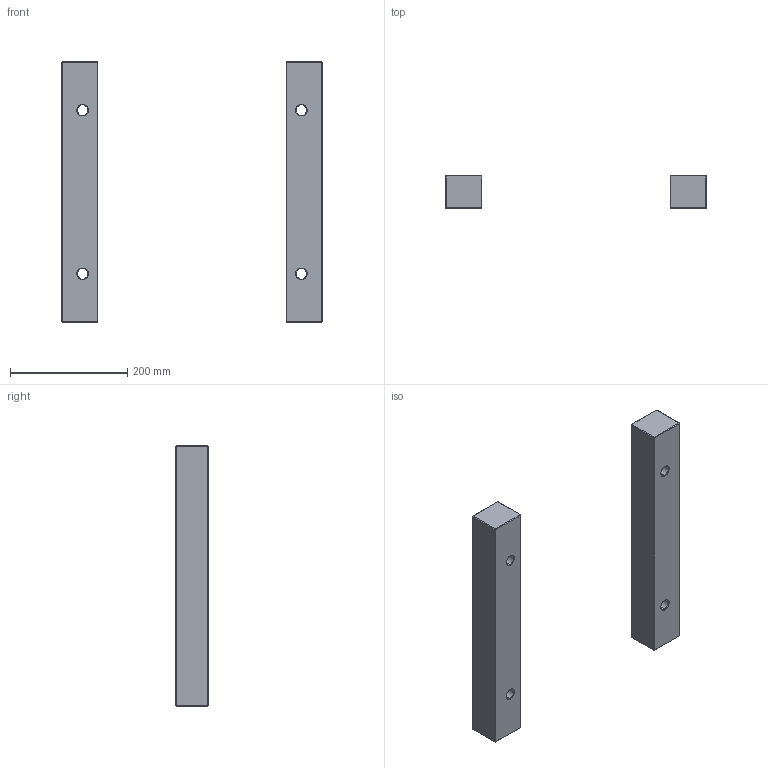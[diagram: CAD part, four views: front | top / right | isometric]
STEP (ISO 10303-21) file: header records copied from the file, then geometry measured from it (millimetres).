
FILE_DESCRIPTION (( 'STEP AP214' ), '1' );
FILE_NAME ('ESP-446X446x56.STEP', '2020-04-14T08:53:01', ( 'August' ), ( '' ), 'SwSTEP 2.0', 'SolidWorks 2018', '' );
FILE_SCHEMA (( 'AUTOMOTIVE_DESIGN' ));
Length unit declared in the file: millimetre
Products named in the file (1): ESP-446X446x56
Bounding box: 446 x 56 x 446 mm (x, y, z)
Volume: 3037543 mm3; surface area: 232127.5 mm2
Topology: 2 solids, 2 shells, 76 faces, 152 edges, 80 vertices
Faces by surface type: plane 52, cone 16, cylinder 8
Entity records: 1935 total; most frequent: DIRECTION 338, CARTESIAN_POINT 309, ORIENTED_EDGE 304, EDGE_CURVE 152, VECTOR 120, LINE 120, AXIS2_PLACEMENT_3D 109, EDGE_LOOP 84
